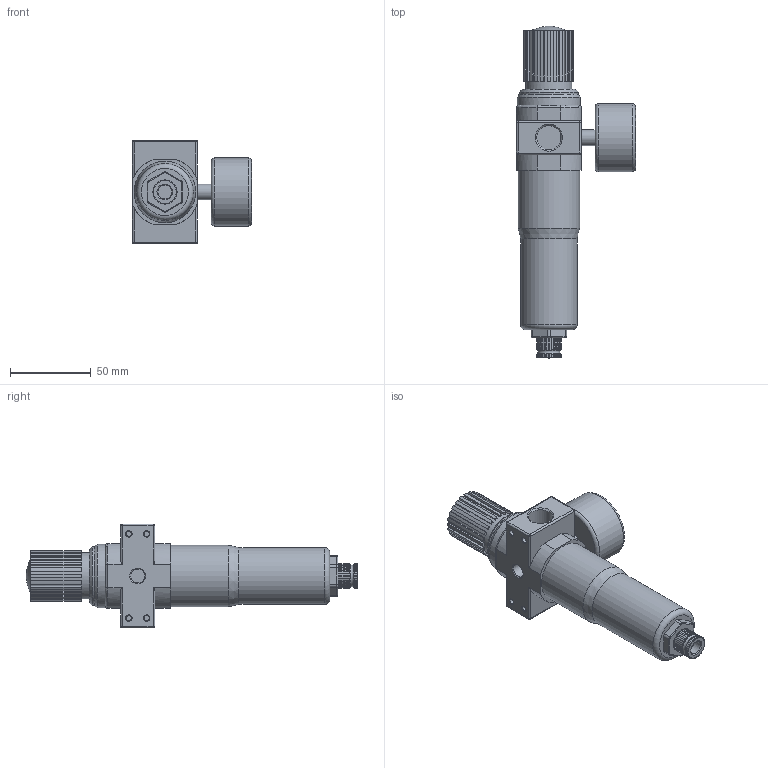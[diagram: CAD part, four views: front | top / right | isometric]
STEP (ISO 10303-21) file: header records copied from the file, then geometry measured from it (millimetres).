
FILE_DESCRIPTION(/* description */ ('STEP AP214'),/* implementation_level */ '2;1');
FILE_NAME(/* name */ '90-FRC-37-xx-05-aa.stp',/* time_stamp */ '2026-01-20T14:31:52+01:00',/* author */ ('Tschernatsch'),/* organization */ ('CADENAS'),/* preprocessor_version */ 'ST-DEVELOPER v20',/* originating_system */ 'Autodesk Inventor 2024',/* authorisation */ ' ');
FILE_SCHEMA (('AUTOMOTIVE_DESIGN { 1 0 10303 214 3 1 1 }'));
Length unit declared in the file: millimetre
Products named in the file (1): LFR-G3/8-MINI-H_
Bounding box: 73.5 x 205 x 64 mm (x, y, z)
Volume: 250996.3 mm3; surface area: 38080.3 mm2
Topology: 1 solids, 2 shells, 391 faces, 1063 edges, 683 vertices
Faces by surface type: plane 197, cylinder 160, torus 14, cone 11, sphere 8, bspline 1
Full cylindrical faces by diameter (mm): 3.242 x4, 8.566 x3, 9.728 x1, 14.95 x2, 28.5 x1, 35 x1, 36 x1, 38 x1, 39 x1, 42 x1
Entity records: 12769 total; most frequent: CARTESIAN_POINT 2731, DIRECTION 2137, ORIENTED_EDGE 2108, EDGE_CURVE 1054, AXIS2_PLACEMENT_3D 788, VERTEX_POINT 683, LINE 561, VECTOR 561
